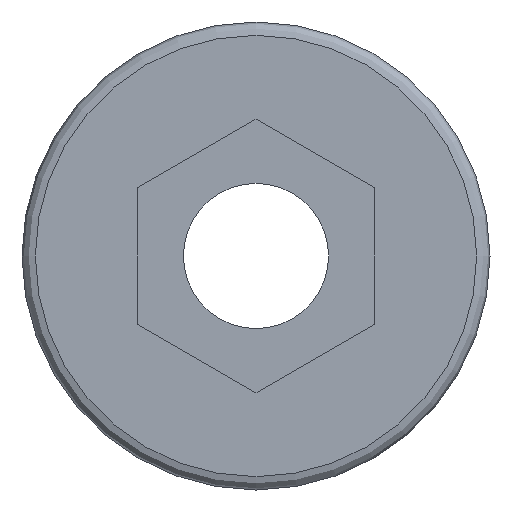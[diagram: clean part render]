
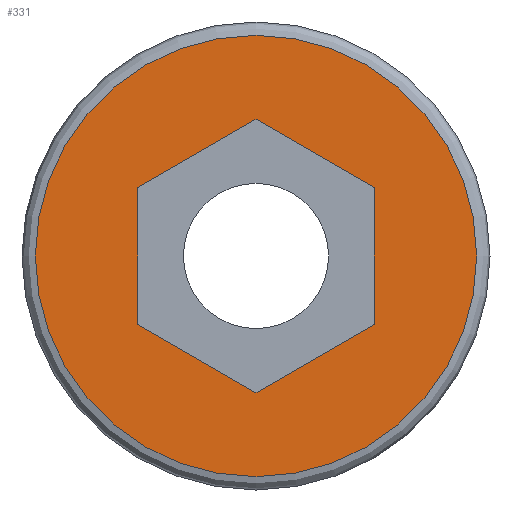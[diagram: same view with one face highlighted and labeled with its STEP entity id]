
A CAD part, front view. The second image highlights one B-rep face of the part: STEP entity #331.
In plain terms, the highlighted planar face has unit normal (0, -1, 0).
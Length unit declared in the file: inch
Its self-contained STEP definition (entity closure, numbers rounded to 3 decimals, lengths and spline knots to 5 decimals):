
#17=FACE_BOUND('',#108,.T.);
#22=PLANE('',#378);
#34=LINE('',#550,#57);
#35=LINE('',#552,#58);
#36=LINE('',#554,#59);
#37=LINE('',#556,#60);
#38=LINE('',#558,#61);
#39=LINE('',#559,#62);
#57=VECTOR('',#446,0.3937);
#58=VECTOR('',#447,0.3937);
#59=VECTOR('',#448,0.3937);
#60=VECTOR('',#449,0.3937);
#61=VECTOR('',#450,0.3937);
#62=VECTOR('',#451,0.3937);
#87=FACE_OUTER_BOUND('',#107,.T.);
#107=EDGE_LOOP('',(#253,#254));
#108=EDGE_LOOP('',(#255,#256,#257,#258,#259,#260));
#132=CIRCLE('',#370,0.1155);
#136=CIRCLE('',#374,0.1155);
#155=VERTEX_POINT('',#532);
#156=VERTEX_POINT('',#533);
#161=VERTEX_POINT('',#548);
#162=VERTEX_POINT('',#549);
#163=VERTEX_POINT('',#551);
#164=VERTEX_POINT('',#553);
#165=VERTEX_POINT('',#555);
#166=VERTEX_POINT('',#557);
#190=EDGE_CURVE('',#155,#156,#132,.T.);
#194=EDGE_CURVE('',#156,#155,#136,.T.);
#198=EDGE_CURVE('',#161,#162,#34,.T.);
#199=EDGE_CURVE('',#162,#163,#35,.T.);
#200=EDGE_CURVE('',#163,#164,#36,.T.);
#201=EDGE_CURVE('',#164,#165,#37,.T.);
#202=EDGE_CURVE('',#165,#166,#38,.T.);
#203=EDGE_CURVE('',#166,#161,#39,.T.);
#253=ORIENTED_EDGE('',*,*,#190,.F.);
#254=ORIENTED_EDGE('',*,*,#194,.F.);
#255=ORIENTED_EDGE('',*,*,#198,.T.);
#256=ORIENTED_EDGE('',*,*,#199,.T.);
#257=ORIENTED_EDGE('',*,*,#200,.T.);
#258=ORIENTED_EDGE('',*,*,#201,.T.);
#259=ORIENTED_EDGE('',*,*,#202,.T.);
#260=ORIENTED_EDGE('',*,*,#203,.T.);
#331=ADVANCED_FACE('',(#87,#17),#22,.T.);
#370=AXIS2_PLACEMENT_3D('',#534,#427,#428);
#374=AXIS2_PLACEMENT_3D('',#540,#435,#436);
#378=AXIS2_PLACEMENT_3D('',#547,#444,#445);
#427=DIRECTION('center_axis',(0.,1.,0.));
#428=DIRECTION('ref_axis',(0.,0.,1.));
#435=DIRECTION('center_axis',(0.,1.,0.));
#436=DIRECTION('ref_axis',(0.,0.,1.));
#444=DIRECTION('center_axis',(0.,-1.,0.));
#445=DIRECTION('ref_axis',(0.,0.,-1.));
#446=DIRECTION('',(0.866,0.,-0.5));
#447=DIRECTION('',(0.,0.,-1.));
#448=DIRECTION('',(-0.866,0.,-0.5));
#449=DIRECTION('',(-0.866,0.,0.5));
#450=DIRECTION('',(0.,0.,1.));
#451=DIRECTION('',(0.866,0.,0.5));
#532=CARTESIAN_POINT('',(0.,0.,-0.1155));
#533=CARTESIAN_POINT('',(0.,0.,0.1155));
#534=CARTESIAN_POINT('Origin',(0.,0.,0.));
#540=CARTESIAN_POINT('Origin',(0.,0.,0.));
#547=CARTESIAN_POINT('Origin',(0.,0.,-0.038));
#548=CARTESIAN_POINT('',(0.,0.,0.07159));
#549=CARTESIAN_POINT('',(0.062,0.,0.0358));
#550=CARTESIAN_POINT('',(0.02373,0.,0.05789));
#551=CARTESIAN_POINT('',(0.062,0.,-0.0358));
#552=CARTESIAN_POINT('',(0.062,0.,-0.0011));
#553=CARTESIAN_POINT('',(0.,0.,-0.07159));
#554=CARTESIAN_POINT('',(0.03827,0.,-0.04949));
#555=CARTESIAN_POINT('',(-0.062,0.,-0.0358));
#556=CARTESIAN_POINT('',(-0.00727,0.,-0.06739));
#557=CARTESIAN_POINT('',(-0.062,0.,0.0358));
#558=CARTESIAN_POINT('',(-0.062,0.,-0.0369));
#559=CARTESIAN_POINT('',(-0.05473,0.,0.03999));
